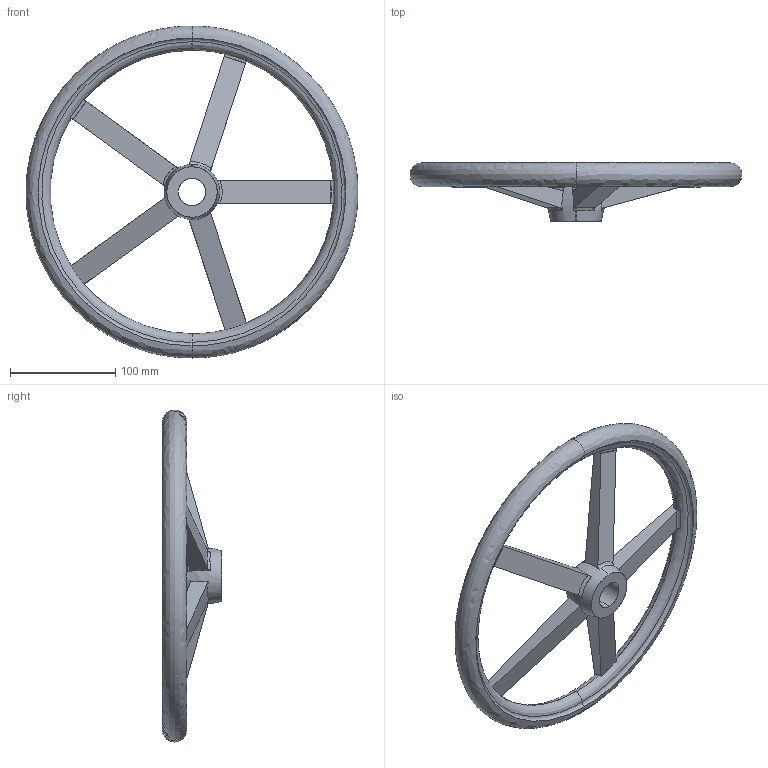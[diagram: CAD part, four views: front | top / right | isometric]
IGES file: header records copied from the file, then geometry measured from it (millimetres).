
Start section: SolidWorks IGES file using analytic representation for surfaces
Global section: file name: C:\Users\IanO\Desktop\Temp File\Process pending\77120_v2\77120_v2_20171108_IGES\77120.W0045.igs; native system: SolidWorks 2017; preprocessor: SolidWorks 2017; author: IanO; date: 171108.083118; units: millimetre
Bounding box: 315 x 56 x 315 mm (x, y, z)
Surface area: 112727.5 mm2 (no closed solid volume)
Topology: 0 solids, 0 shells, 51 faces, 1120 edges, 1113 vertices
Faces by surface type: bspline 49, revolution 2
